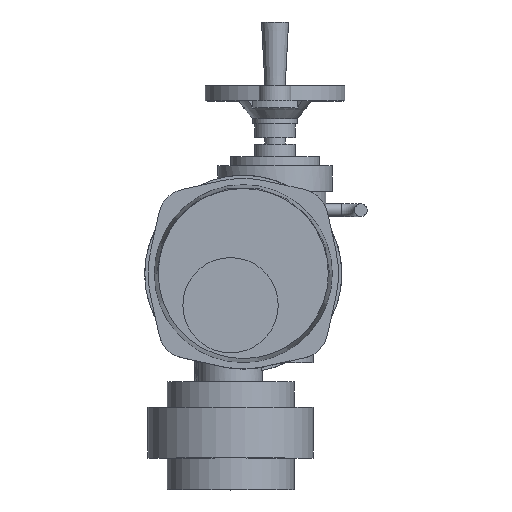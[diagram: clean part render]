
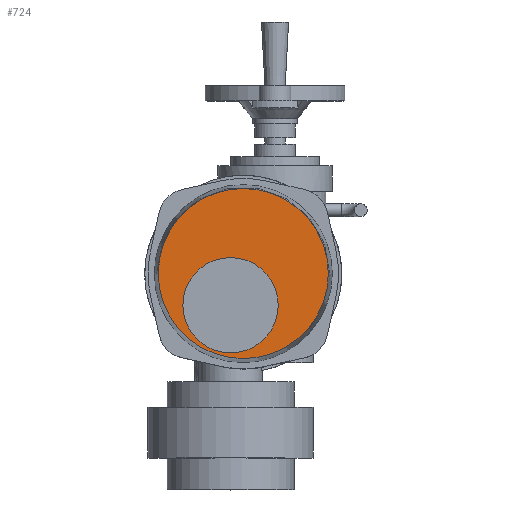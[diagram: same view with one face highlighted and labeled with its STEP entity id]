
A CAD part, top view. The second image highlights one B-rep face of the part: STEP entity #724.
In plain terms, the highlighted planar face has unit normal (0, 0, 1).
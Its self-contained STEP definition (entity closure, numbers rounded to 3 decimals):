
#724=ADVANCED_FACE('',(#7232,#7234),#7236,.T.);
#7232=FACE_BOUND('',#7233,.T.);
#7233=EDGE_LOOP('',(#12295));
#7234=FACE_BOUND('',#7235,.T.);
#7235=EDGE_LOOP('',(#12296));
#7236=PLANE('',#7237);
#7237=AXIS2_PLACEMENT_3D('',#7238,#7239,#7240);
#7238=CARTESIAN_POINT('',(15.,30.,407.));
#7239=DIRECTION('',(0.,0.,1.));
#7240=DIRECTION('',(-1.,0.,0.));
#12295=ORIENTED_EDGE('',*,*,#16187,.T.);
#12296=ORIENTED_EDGE('',*,*,#16190,.F.);
#16187=EDGE_CURVE('',#18347,#18347,#18348,.T.);
#16190=EDGE_CURVE('',#18353,#18353,#18354,.T.);
#18347=VERTEX_POINT('',#22760);
#18348=CIRCLE('',#22761,66.908);
#18353=VERTEX_POINT('',#22775);
#18354=CIRCLE('',#22776,37.5);
#22760=CARTESIAN_POINT('',(-51.908,30.,407.));
#22761=AXIS2_PLACEMENT_3D('',#22762,#22763,#22764);
#22762=CARTESIAN_POINT('',(15.,30.,407.));
#22763=DIRECTION('',(0.,0.,1.));
#22764=DIRECTION('',(-1.,0.,0.));
#22775=CARTESIAN_POINT('',(-32.5,5.,407.));
#22776=AXIS2_PLACEMENT_3D('',#22777,#22778,#22779);
#22777=CARTESIAN_POINT('',(5.,5.,407.));
#22778=DIRECTION('',(0.,0.,1.));
#22779=DIRECTION('',(-1.,0.,0.));
